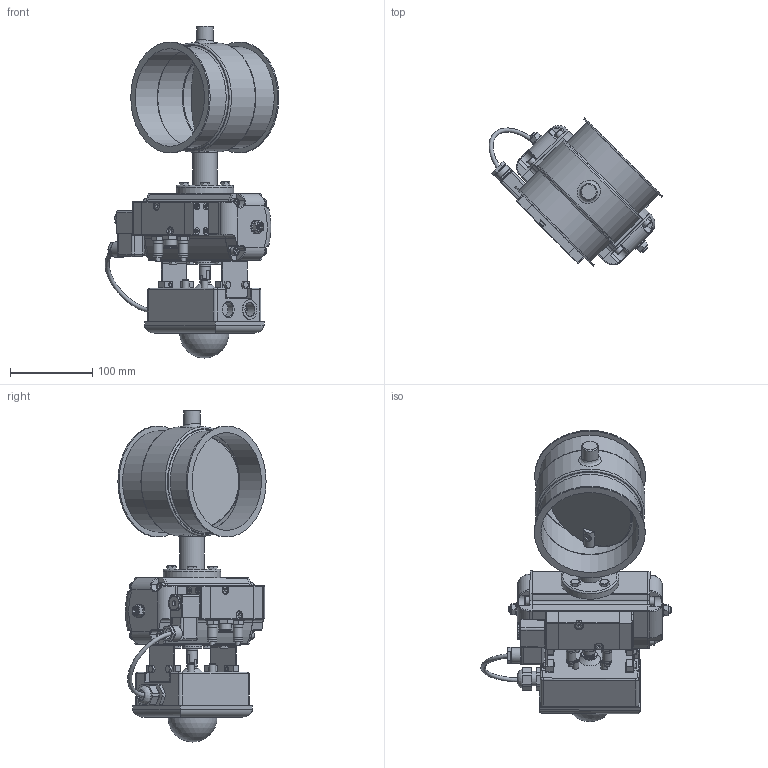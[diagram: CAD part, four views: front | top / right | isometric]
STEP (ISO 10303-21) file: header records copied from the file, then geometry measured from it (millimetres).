
FILE_DESCRIPTION((''),'2;1');
FILE_NAME('U:\Wolfgang\Marcel-3D\fertig\Kapitel 8\1221212.stp','2011-05-03T15:04:07',('TK1'),(''),'Autodesk Inventor 2010','Autodesk Inventor 2010','');
FILE_SCHEMA(('AUTOMOTIVE_DESIGN { 1 0 10303 214 1 1 1 1 }'));
Length unit declared in the file: millimetre
Products named in the file (41): 1221212; Bolzen D15; Scheibe120b; DIN 6912 M6 x 16; 1221210-1; Antrieb Flowserve; BuchseD15 70-50; Pneumatischer SchwenkantriebS63D-2; Body; roter Verschluss; A1 Schwenkantrieb; Body S063D; End Cap L; End Cap R; DIN EN ISO 4762 M6 x 12; DIN EN ISO 4018 M5x10; DIN 916 M8  x  40; DIN 555 - ersetzt durch DIN EN 24034 M8; DIN 125-1 A A 8,4; DIN 125-1 A A 13; A1 Ventileinheit-2; Ventil1; Ventil1a; Ventil1b; Ventil1a_1; Ventil1b_1; ISO 7046-1 Z M4 x 25 - 4.8 - Z; Ventil1c; Ventil1d; ISO 7047 (H) M3x8 - 4.8 - H; DIN 7984 M6 x 40; DIN EN ISO 7042 M8; Ventil1e; Ventil1f; DIN EN 24766 M6 x 30; DIN 439-2 - ersetzt durch DIN EN 24035/28675 M6; entlüftung; Halterung; Deckel2; Schlauch 1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
Assembly tree (79 placements, depth 5):
  1221212
    Bolzen D15  x2
    Scheibe120b
    DIN 6912 M6 x 16  x2
    1221210-1
    Antrieb Flowserve
      BuchseD15 70-50
      Pneumatischer SchwenkantriebS63D-2
        Body
        roter Verschluss
        A1 Schwenkantrieb
          Body S063D
          End Cap L
          End Cap R
          DIN EN ISO 4762 M6 x 12  x8
          DIN EN ISO 4018 M5x10  x4
          DIN 916 M8  x  40  x2
          DIN 555 - ersetzt durch DIN EN 24034 M8  x2
          DIN 125-1 A A 8,4  x2
          DIN 125-1 A A 13  x2
        A1 Ventileinheit-2
          Ventil1
          Ventil1a
          Ventil1b
          Ventil1a_1
          Ventil1b_1
          ISO 7046-1 Z M4 x 25 - 4.8 - Z  x8
          Ventil1c
          Ventil1d
          ISO 7047 (H) M3x8 - 4.8 - H
          DIN 7984 M6 x 40  x2
          DIN EN ISO 7042 M8  x2
          DIN 125-1 A A 8,4  x2
          Ventil1e  x2
          Ventil1f  x2
          DIN EN 24766 M6 x 30  x2
          DIN 439-2 - ersetzt durch DIN EN 24035/28675 M6  x2
          entlüftung
        Halterung  x2
        DIN EN ISO 4018 M5x10  x4
        Deckel2
        Schlauch 1
      DIN EN ISO 4018 M6x25  x4
Bounding box: 211.53 x 180.33 x 404 mm (x, y, z)
Volume: 1733109.6 mm3; surface area: 451858.5 mm2
Topology: 78 solids, 79 shells, 1697 faces, 4000 edges, 2539 vertices
Faces by surface type: plane 826, cylinder 334, cone 302, bspline 150, torus 77, sphere 8
Full cylindrical faces by diameter (mm): 2.5 x1, 3 x3, 3.242 x8, 3.571 x8, 4 x8, 4.917 x4, 5 x10, 5.5 x1, 6 x24, 6.647 x1, 8 x6, 8.4 x12, 10 x14, 11.63 x6, 11.9 x2, 12 x1, 12.5 x1, 13 x7, 14 x3, 15 x7, 15.5 x1, 15.918 x1, 16 x5, 16.918 x1, 17 x3, 17.79 x2, 18 x3, 19 x2, 20 x1, 22 x1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
Entity records: 31167 total; most frequent: CARTESIAN_POINT 8622, DIRECTION 4529, ORIENTED_EDGE 3936, EDGE_CURVE 1968, AXIS2_PLACEMENT_3D 1798, EDGE_LOOP 1400, VERTEX_POINT 1387, FACE_OUTER_BOUND 977
